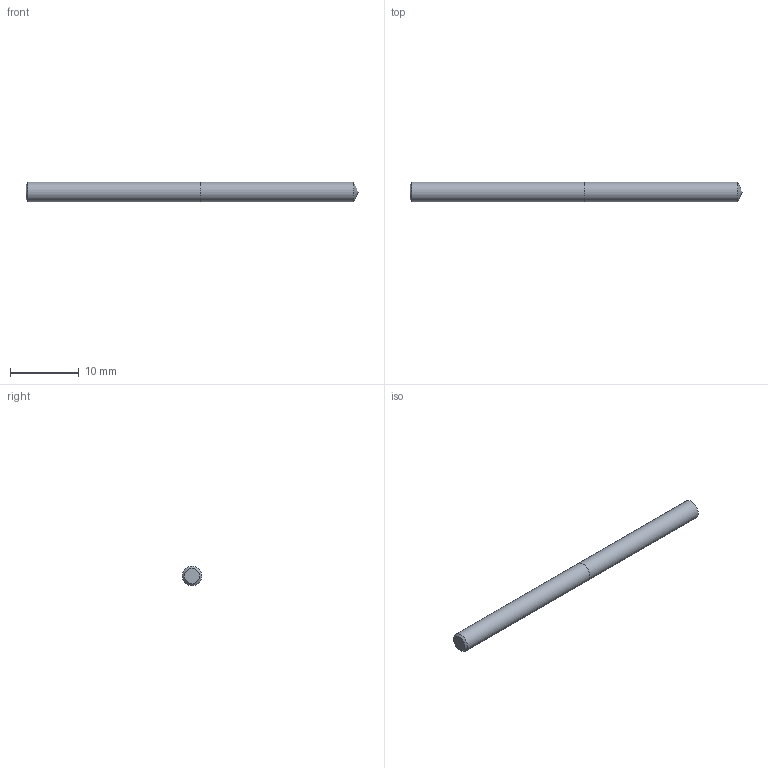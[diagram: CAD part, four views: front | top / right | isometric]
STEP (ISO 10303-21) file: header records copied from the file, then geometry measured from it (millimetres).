
FILE_DESCRIPTION (( 'STEP AP214' ), '1' );
FILE_NAME ('03-2376.STEP', '2022-06-03T06:56:11', ( 'USER' ), ( '' ), 'SwSTEP 2.0', 'SolidWorks 2018', '' );
FILE_SCHEMA (( 'AUTOMOTIVE_DESIGN' ));
Length unit declared in the file: inch
Products named in the file (1): 03-2376
Bounding box: 48.21 x 2.82 x 2.82 mm (x, y, z)
Volume: 298.2 mm3; surface area: 445.8 mm2
Topology: 2 solids, 2 shells, 7 faces, 11 edges, 7 vertices
Faces by surface type: plane 3, cylinder 2, cone 2
Full cylindrical faces by diameter (mm): 2.819 x2
Entity records: 214 total; most frequent: DIRECTION 26, CARTESIAN_POINT 18, AXIS2_PLACEMENT_3D 13, EDGE_LOOP 10, ORIENTED_EDGE 10, FACE_OUTER_BOUND 9, LENGTH_MEASURE_WITH_UNIT 7, DIMENSIONAL_EXPONENTS 7
